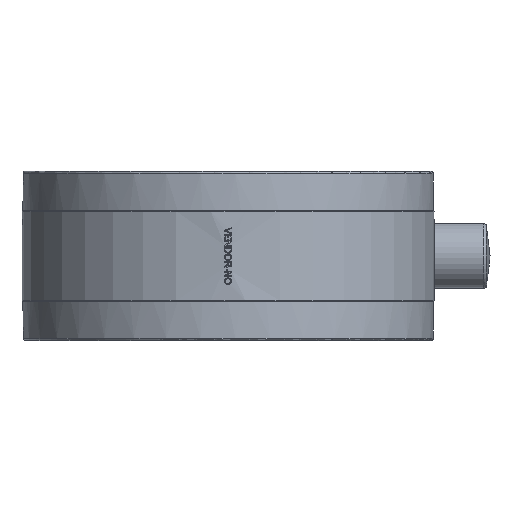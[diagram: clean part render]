
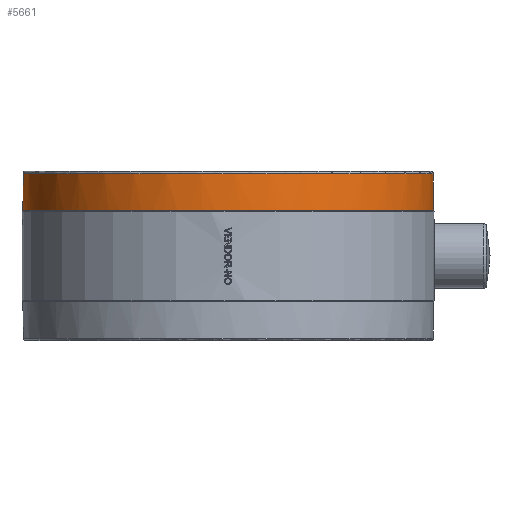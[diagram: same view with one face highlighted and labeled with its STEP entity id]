
A CAD part, front view. The second image highlights one B-rep face of the part: STEP entity #5661.
In plain terms, the highlighted cylindrical face has radius 72.5 mm (diameter 145 mm), a full revolution.
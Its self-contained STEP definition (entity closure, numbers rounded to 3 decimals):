
#1958=ELLIPSE('',#20420,102.53,72.5);
#1959=ELLIPSE('',#20422,102.53,72.5);
#5012=CYLINDRICAL_SURFACE('',#20423,72.5);
#5661=ADVANCED_FACE('',(#8890,#8891),#5012,.T.);
#7293=LINE('',#30589,#8343);
#7303=LINE('',#30620,#8353);
#8343=VECTOR('',#23674,1.);
#8353=VECTOR('',#23684,1.);
#8890=FACE_BOUND('',#9753,.T.);
#8891=FACE_BOUND('',#9754,.T.);
#9753=EDGE_LOOP('',(#12952));
#9754=EDGE_LOOP('',(#12953,#12954,#12955,#12956,#12957,#12958));
#12952=ORIENTED_EDGE('',*,*,#17862,.T.);
#12953=ORIENTED_EDGE('',*,*,#17831,.T.);
#12954=ORIENTED_EDGE('',*,*,#17863,.T.);
#12955=ORIENTED_EDGE('',*,*,#17843,.T.);
#12956=ORIENTED_EDGE('',*,*,#17864,.T.);
#12957=ORIENTED_EDGE('',*,*,#17865,.T.);
#12958=ORIENTED_EDGE('',*,*,#17866,.T.);
#15856=VERTEX_POINT('',#30590);
#15857=VERTEX_POINT('',#30591);
#15868=VERTEX_POINT('',#30619);
#15869=VERTEX_POINT('',#30621);
#15887=VERTEX_POINT('',#30700);
#15888=VERTEX_POINT('',#30703);
#15889=VERTEX_POINT('',#30705);
#17831=EDGE_CURVE('',#15856,#15857,#7293,.T.);
#17843=EDGE_CURVE('',#15869,#15868,#7303,.T.);
#17862=EDGE_CURVE('',#15887,#15887,#19205,.T.);
#17863=EDGE_CURVE('',#15857,#15869,#19206,.T.);
#17864=EDGE_CURVE('',#15868,#15888,#1958,.T.);
#17865=EDGE_CURVE('',#15888,#15889,#19207,.T.);
#17866=EDGE_CURVE('',#15889,#15856,#1959,.T.);
#19205=CIRCLE('',#20418,72.5);
#19206=CIRCLE('',#20419,72.5);
#19207=CIRCLE('',#20421,72.5);
#20418=AXIS2_PLACEMENT_3D('',#30699,#23700,#23701);
#20419=AXIS2_PLACEMENT_3D('',#30701,#23702,#23703);
#20420=AXIS2_PLACEMENT_3D('',#30702,#23704,#23705);
#20421=AXIS2_PLACEMENT_3D('',#30704,#23706,#23707);
#20422=AXIS2_PLACEMENT_3D('',#30706,#23708,#23709);
#20423=AXIS2_PLACEMENT_3D('',#30707,#23710,#23711);
#23674=DIRECTION('',(0.,0.,1.));
#23684=DIRECTION('',(0.,0.,-1.));
#23700=DIRECTION('',(0.,0.,-1.));
#23701=DIRECTION('',(1.,0.,0.));
#23702=DIRECTION('',(0.,0.,1.));
#23703=DIRECTION('',(-1.,0.,0.));
#23704=DIRECTION('',(0.,0.707,0.707));
#23705=DIRECTION('',(0.,0.707,-0.707));
#23706=DIRECTION('',(0.,0.,1.));
#23707=DIRECTION('',(1.,0.,0.));
#23708=DIRECTION('',(0.,0.707,0.707));
#23709=DIRECTION('',(0.,0.707,-0.707));
#23710=DIRECTION('',(0.,0.,-1.));
#23711=DIRECTION('',(-1.,0.,0.));
#30589=CARTESIAN_POINT('',(18.875,70.,30.));
#30590=CARTESIAN_POINT('',(18.875,70.,15.85));
#30591=CARTESIAN_POINT('',(18.875,70.,16.55));
#30619=CARTESIAN_POINT('',(-18.875,70.,15.85));
#30620=CARTESIAN_POINT('',(-18.875,70.,30.));
#30621=CARTESIAN_POINT('',(-18.875,70.,16.55));
#30699=CARTESIAN_POINT('',(0.,0.,29.));
#30700=CARTESIAN_POINT('',(72.5,0.,29.));
#30701=CARTESIAN_POINT('',(0.,0.,16.55));
#30702=CARTESIAN_POINT('',(0.,0.,85.85));
#30703=CARTESIAN_POINT('',(-19.778,69.75,16.1));
#30704=CARTESIAN_POINT('',(0.,0.,16.1));
#30705=CARTESIAN_POINT('',(19.778,69.75,16.1));
#30706=CARTESIAN_POINT('',(0.,0.,85.85));
#30707=CARTESIAN_POINT('',(0.,0.,30.));
